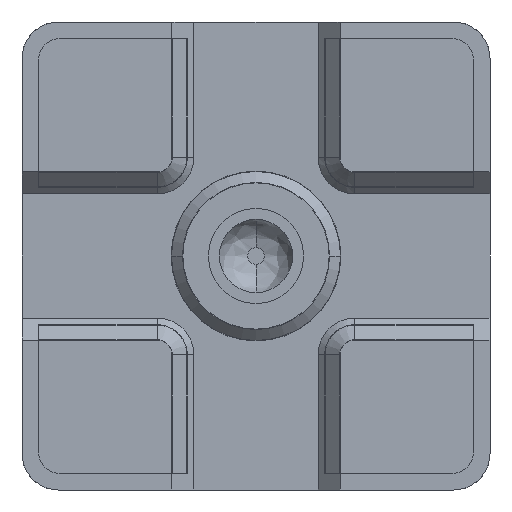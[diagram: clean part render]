
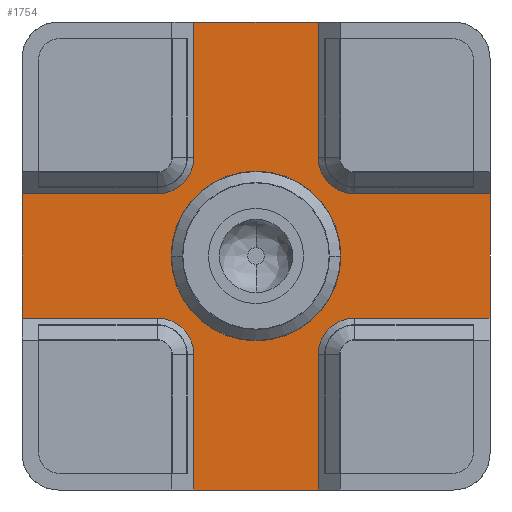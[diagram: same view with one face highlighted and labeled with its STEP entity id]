
A CAD part, front view. The second image highlights one B-rep face of the part: STEP entity #1754.
In plain terms, the highlighted planar face has unit normal (0, -1, 0).
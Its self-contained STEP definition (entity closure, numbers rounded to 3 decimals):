
#755=CARTESIAN_POINT('',(0.,0.3,0.));
#756=DIRECTION('',(0.,-1.,0.));
#757=DIRECTION('',(-1.,0.,0.));
#758=AXIS2_PLACEMENT_3D('',#755,#756,#757);
#763=CARTESIAN_POINT('',(0.,0.3,0.));
#764=DIRECTION('',(0.,-1.,0.));
#765=DIRECTION('',(1.,0.,0.));
#766=AXIS2_PLACEMENT_3D('',#763,#764,#765);
#771=DIRECTION('',(-1.,0.,0.));
#772=VECTOR('',#771,1.85);
#773=CARTESIAN_POINT('',(-1.35,0.3,
-0.85));
#774=LINE('',#773,#772);
#778=DIRECTION('',(0.,0.,1.));
#779=VECTOR('',#778,1.7);
#780=CARTESIAN_POINT('',(-3.2,0.3,-0.85));
#781=LINE('',#780,#779);
#785=DIRECTION('',(1.,0.,0.));
#786=VECTOR('',#785,1.85);
#787=CARTESIAN_POINT('',(-3.2,0.3,0.85));
#788=LINE('',#787,#786);
#792=CARTESIAN_POINT('',(-1.35,0.3,1.35));
#793=DIRECTION('',(0.,-1.,0.));
#794=DIRECTION('',(0.,0.,-1.));
#795=AXIS2_PLACEMENT_3D('',#792,#793,#794);
#800=DIRECTION('',(0.,0.,1.));
#801=VECTOR('',#800,1.85);
#802=CARTESIAN_POINT('',(-0.85,0.3,
1.35));
#803=LINE('',#802,#801);
#807=DIRECTION('',(1.,0.,0.));
#808=VECTOR('',#807,1.7);
#809=CARTESIAN_POINT('',(-0.85,0.3,3.2));
#810=LINE('',#809,#808);
#814=DIRECTION('',(0.,0.,-1.));
#815=VECTOR('',#814,1.85);
#816=CARTESIAN_POINT('',(0.85,0.3,3.2));
#817=LINE('',#816,#815);
#821=CARTESIAN_POINT('',(1.35,0.3,1.35));
#822=DIRECTION('',(0.,-1.,0.));
#823=DIRECTION('',(-1.,0.,0.));
#824=AXIS2_PLACEMENT_3D('',#821,#822,#823);
#829=DIRECTION('',(1.,0.,0.));
#830=VECTOR('',#829,1.85);
#831=CARTESIAN_POINT('',(1.35,0.3,0.85));
#832=LINE('',#831,#830);
#836=DIRECTION('',(0.,0.,-1.));
#837=VECTOR('',#836,1.7);
#838=CARTESIAN_POINT('',(3.2,0.3,0.85));
#839=LINE('',#838,#837);
#843=DIRECTION('',(-1.,0.,0.));
#844=VECTOR('',#843,1.85);
#845=CARTESIAN_POINT('',(3.2,0.3,-0.85));
#846=LINE('',#845,#844);
#850=CARTESIAN_POINT('',(1.35,0.3,-1.35));
#851=DIRECTION('',(0.,-1.,0.));
#852=DIRECTION('',(0.,0.,1.));
#853=AXIS2_PLACEMENT_3D('',#850,#851,#852);
#858=DIRECTION('',(0.,0.,-1.));
#859=VECTOR('',#858,1.85);
#860=CARTESIAN_POINT('',(0.85,0.3,
-1.35));
#861=LINE('',#860,#859);
#865=DIRECTION('',(-1.,0.,0.));
#866=VECTOR('',#865,1.7);
#867=CARTESIAN_POINT('',(0.85,0.3,-3.2));
#868=LINE('',#867,#866);
#872=DIRECTION('',(0.,0.,1.));
#873=VECTOR('',#872,1.85);
#874=CARTESIAN_POINT('',(-0.85,0.3,-3.2));
#875=LINE('',#874,#873);
#879=CARTESIAN_POINT('',(-1.35,0.3,-1.35));
#880=DIRECTION('',(0.,-1.,0.));
#881=DIRECTION('',(1.,0.,0.));
#882=AXIS2_PLACEMENT_3D('',#879,#880,#881);
#1079=CARTESIAN_POINT('',(0.85,0.3,-3.2));
#1081=VERTEX_POINT('',#1079);
#1084=CARTESIAN_POINT('',(3.2,0.3,-0.85));
#1086=VERTEX_POINT('',#1084);
#1091=CARTESIAN_POINT('',(-0.85,0.3,3.2));
#1093=VERTEX_POINT('',#1091);
#1096=CARTESIAN_POINT('',(-3.2,0.3,0.85));
#1098=VERTEX_POINT('',#1096);
#1118=CARTESIAN_POINT('',(1.35,0.3,
-0.85));
#1119=VERTEX_POINT('',#1118);
#1120=CARTESIAN_POINT('',(-1.35,0.3,
0.85));
#1121=VERTEX_POINT('',#1120);
#1122=CARTESIAN_POINT('',(0.85,0.3,
-1.35));
#1123=VERTEX_POINT('',#1122);
#1124=CARTESIAN_POINT('',(-0.85,0.3,
1.35));
#1125=VERTEX_POINT('',#1124);
#1134=CARTESIAN_POINT('',(-3.2,0.3,-0.85));
#1135=VERTEX_POINT('',#1134);
#1140=CARTESIAN_POINT('',(3.2,0.3,0.85));
#1141=VERTEX_POINT('',#1140);
#1144=CARTESIAN_POINT('',(0.85,0.3,3.2));
#1145=VERTEX_POINT('',#1144);
#1148=CARTESIAN_POINT('',(-0.85,0.3,
-1.35));
#1149=VERTEX_POINT('',#1148);
#1150=CARTESIAN_POINT('',(0.85,0.3,
1.35));
#1151=VERTEX_POINT('',#1150);
#1160=CARTESIAN_POINT('',(-1.35,0.3,
-0.85));
#1161=VERTEX_POINT('',#1160);
#1162=CARTESIAN_POINT('',(-0.85,0.3,-3.2));
#1163=VERTEX_POINT('',#1162);
#1164=CARTESIAN_POINT('',(1.35,0.3,
0.85));
#1165=VERTEX_POINT('',#1164);
#1166=CARTESIAN_POINT('',(-1.16,0.3,0.));
#1167=CARTESIAN_POINT('',(1.16,0.3,0.));
#1168=VERTEX_POINT('',#1166);
#1169=VERTEX_POINT('',#1167);
#1721=CARTESIAN_POINT('',(0.,0.3,0.));
#1722=DIRECTION('',(0.,1.,0.));
#1723=DIRECTION('',(1.,0.,0.));
#1724=AXIS2_PLACEMENT_3D('',#1721,#1722,#1723);
#1725=PLANE('',#1724);
#1727=ORIENTED_EDGE('',*,*,#1726,.T.);
#1728=ORIENTED_EDGE('',*,*,#1593,.T.);
#1729=ORIENTED_EDGE('',*,*,#1615,.T.);
#1730=ORIENTED_EDGE('',*,*,#1628,.T.);
#1731=ORIENTED_EDGE('',*,*,#1641,.T.);
#1732=ORIENTED_EDGE('',*,*,#1663,.T.);
#1733=ORIENTED_EDGE('',*,*,#1689,.T.);
#1734=ORIENTED_EDGE('',*,*,#1703,.T.);
#1735=ORIENTED_EDGE('',*,*,#1714,.T.);
#1736=ORIENTED_EDGE('',*,*,#1389,.T.);
#1737=ORIENTED_EDGE('',*,*,#1414,.T.);
#1739=ORIENTED_EDGE('',*,*,#1738,.T.);
#1740=ORIENTED_EDGE('',*,*,#1502,.T.);
#1741=ORIENTED_EDGE('',*,*,#1527,.T.);
#1743=ORIENTED_EDGE('',*,*,#1742,.T.);
#1745=ORIENTED_EDGE('',*,*,#1744,.T.);
#1746=EDGE_LOOP('',(#1727,#1728,#1729,#1730,#1731,#1732,#1733,#1734,#1735,#1736,
#1737,#1739,#1740,#1741,#1743,#1745));
#1747=FACE_OUTER_BOUND('',#1746,.F.);
#1749=ORIENTED_EDGE('',*,*,#1748,.T.);
#1751=ORIENTED_EDGE('',*,*,#1750,.T.);
#1752=EDGE_LOOP('',(#1749,#1751));
#1753=FACE_BOUND('',#1752,.F.);
#759=CIRCLE('',#758,1.16);
#767=CIRCLE('',#766,1.16);
#796=CIRCLE('',#795,0.5);
#825=CIRCLE('',#824,0.5);
#854=CIRCLE('',#853,0.5);
#883=CIRCLE('',#882,0.5);
#1389=EDGE_CURVE('',#1141,#1086,#839,.T.);
#1414=EDGE_CURVE('',#1086,#1119,#846,.T.);
#1502=EDGE_CURVE('',#1123,#1081,#861,.T.);
#1527=EDGE_CURVE('',#1081,#1163,#868,.T.);
#1593=EDGE_CURVE('',#1135,#1098,#781,.T.);
#1615=EDGE_CURVE('',#1098,#1121,#788,.T.);
#1628=EDGE_CURVE('',#1121,#1125,#796,.T.);
#1641=EDGE_CURVE('',#1125,#1093,#803,.T.);
#1663=EDGE_CURVE('',#1093,#1145,#810,.T.);
#1689=EDGE_CURVE('',#1145,#1151,#817,.T.);
#1703=EDGE_CURVE('',#1151,#1165,#825,.T.);
#1714=EDGE_CURVE('',#1165,#1141,#832,.T.);
#1726=EDGE_CURVE('',#1161,#1135,#774,.T.);
#1738=EDGE_CURVE('',#1119,#1123,#854,.T.);
#1742=EDGE_CURVE('',#1163,#1149,#875,.T.);
#1744=EDGE_CURVE('',#1149,#1161,#883,.T.);
#1748=EDGE_CURVE('',#1168,#1169,#759,.T.);
#1750=EDGE_CURVE('',#1169,#1168,#767,.T.);
#1754=ADVANCED_FACE('',(#1747,#1753),#1725,.F.);
